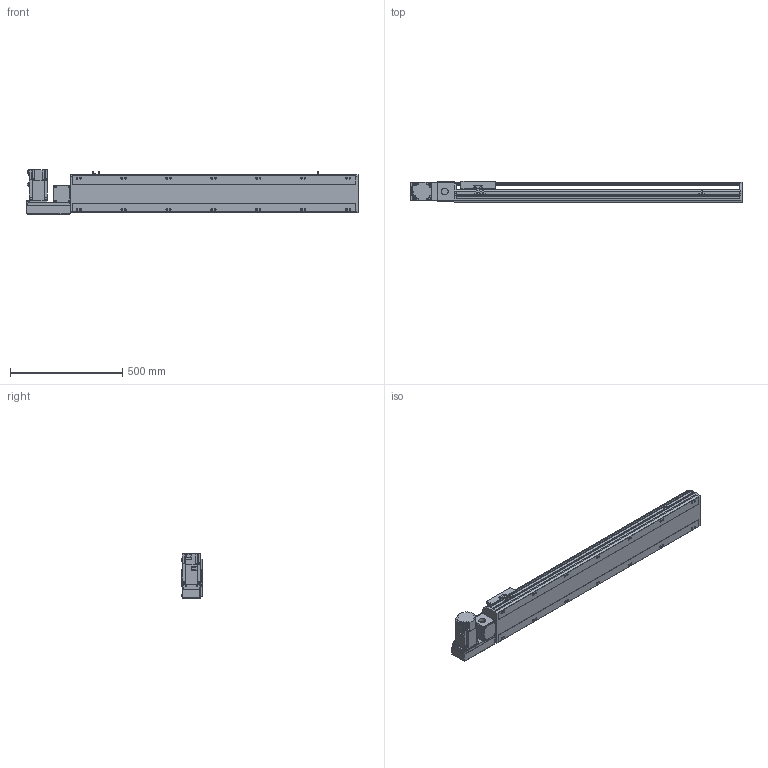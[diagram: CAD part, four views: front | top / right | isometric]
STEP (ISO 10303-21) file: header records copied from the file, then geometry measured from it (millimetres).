
FILE_DESCRIPTION( ( 'STEP AP214' ), '1' );
FILE_NAME( 'x:/temp/worker_3/temp/exporttempdir_5796_103_qPMDw/format_0/PBS170-P40-S1000-L-T75-C1-N(0).stp', '2022-06-07T06:54:58', ( 'License CC BY-ND 4.0' ), ( 'CADENAS' ), ' ', 'PARTsolutions', ' ' );
FILE_SCHEMA( ( 'AUTOMOTIVE_DESIGN { 1 0 10303 214 1 1 1 1 }' ) );
Length unit declared in the file: millimetre
Products named in the file (7): PBS170-P40-S1000-L-T75-C1-N(0); _PBS170-S1000()_body; _PBS170T-L_motors; _T75-p1; _PBS170_sliser; _PBS170_plant; _PBS170_sensor
Assembly tree (8 placements, depth 2):
  PBS170-P40-S1000-L-T75-C1-N(0)
    _PBS170-S1000()_body
    _PBS170T-L_motors
    _T75-p1
    _PBS170_sliser
    _PBS170_plant
    _PBS170_sensor  x3
Bounding box: 1478 x 97 x 197.3 mm (x, y, z)
Volume: 10992665.8 mm3; surface area: 1439294.7 mm2
Topology: 8 solids, 8 shells, 1066 faces, 2835 edges, 1848 vertices
Faces by surface type: plane 681, cylinder 331, cone 44, sphere 8, torus 2
Full cylindrical faces by diameter (mm): 3.242 x4, 4 x2, 4.4 x4, 4.5 x6, 4.917 x4, 6 x9, 6.647 x22, 7 x2, 7.5 x4, 8 x8, 8.5 x14, 10 x4, 10.5 x14, 11 x2, 30 x2, 40 x1, 70 x1
Entity records: 39098 total; most frequent: CARTESIAN_POINT 6053, DIRECTION 5230, ORIENTED_EDGE 4968, EDGE_CURVE 2484, AXIS2_PLACEMENT_3D 1807, VERTEX_POINT 1706, LINE 1616, VECTOR 1616
